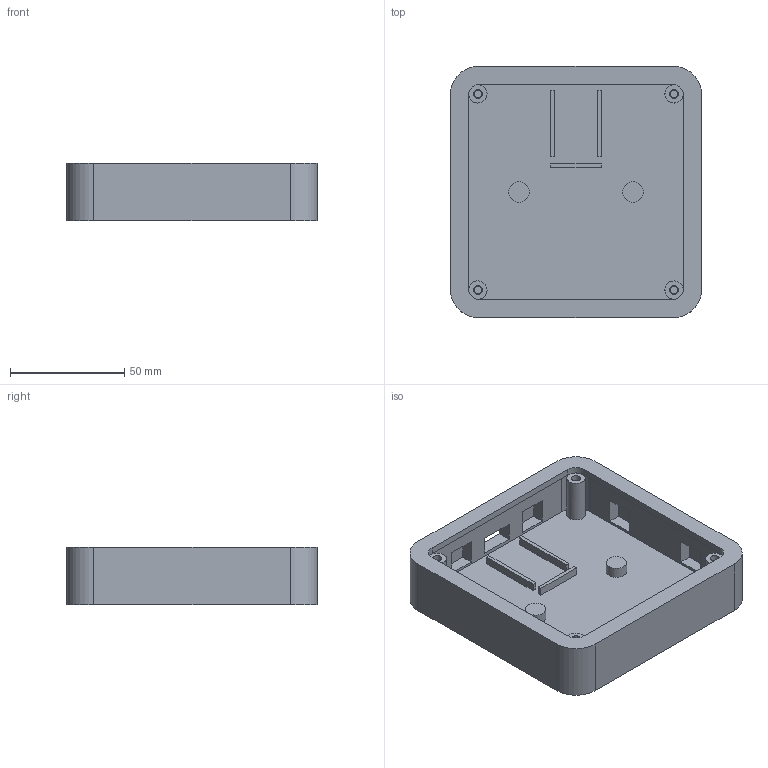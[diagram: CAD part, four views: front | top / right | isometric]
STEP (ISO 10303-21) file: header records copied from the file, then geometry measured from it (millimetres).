
FILE_DESCRIPTION(('Open CASCADE Model'),'2;1');
FILE_NAME('Open CASCADE Shape Model','2026-09-06T14:27:58',('Author'),( 'Open CASCADE'),'Open CASCADE STEP processor 7.9','Open CASCADE 7.9' ,'Unknown');
FILE_SCHEMA(('AUTOMOTIVE_DESIGN { 1 0 10303 214 1 1 1 1 }'));
Length unit declared in the file: millimetre
Products named in the file (1): Open CASCADE STEP translator 7.9 1
Bounding box: 110 x 110 x 25 mm (x, y, z)
Volume: 84205.8 mm3; surface area: 49420.9 mm2
Topology: 1 solids, 1 shells, 123 faces, 286 edges, 188 vertices
Faces by surface type: plane 93, cylinder 30
Full cylindrical faces by diameter (mm): 3.3 x6, 3.9 x6, 8 x4, 9 x2
Entity records: 7206 total; most frequent: CARTESIAN_POINT 1402, DIRECTION 1060, LINE 606, VECTOR 606, ORIENTED_EDGE 572, PCURVE 572, DEFINITIONAL_REPRESENTATION 572, EDGE_CURVE 286
